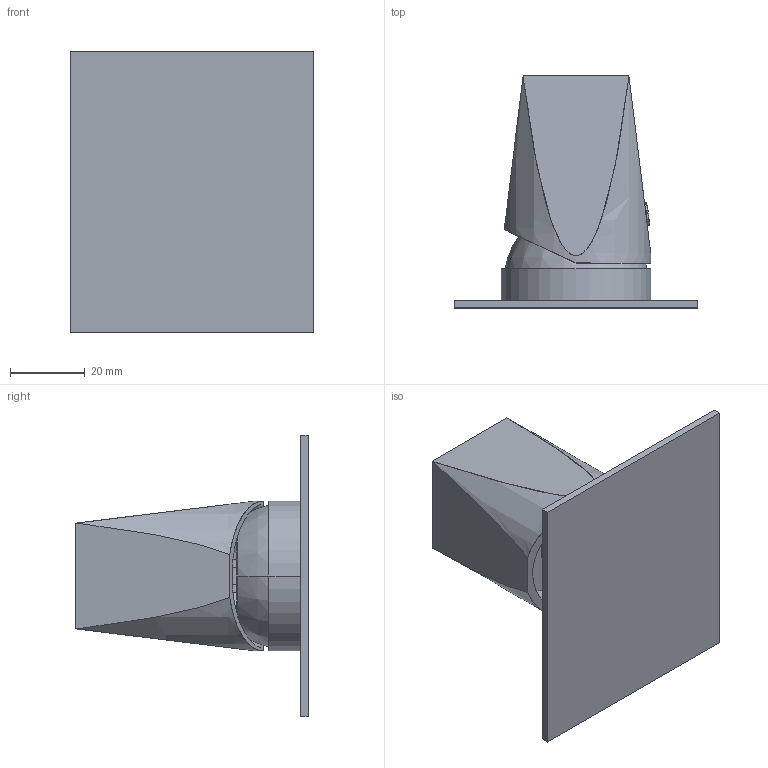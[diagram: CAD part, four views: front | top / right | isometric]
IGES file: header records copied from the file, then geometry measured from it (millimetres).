
Start section:  PTC IGES file: 49427.igs
Global section: file name: 49427.igs; native system: Creo Parametric by PTC Inc.; preprocessor: 2022014; author: carloff; organization: Unknown; date: 20231002.115943; units: millimetre
Bounding box: 65 x 62 x 75 mm (x, y, z)
Surface area: 22731.7 mm2 (no closed solid volume)
Topology: 0 solids, 0 shells, 133 faces, 752 edges, 748 vertices
Faces by surface type: bspline 78, revolution 55
